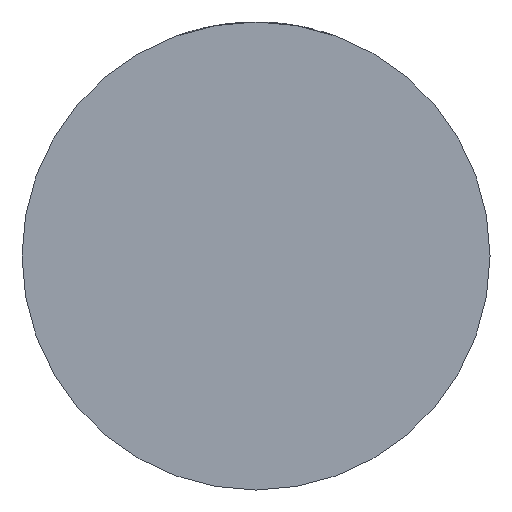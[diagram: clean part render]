
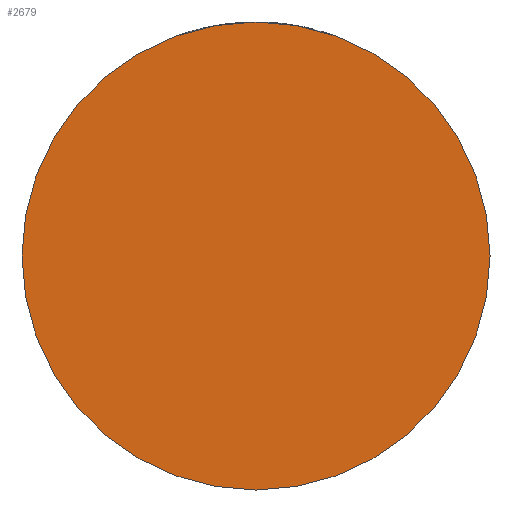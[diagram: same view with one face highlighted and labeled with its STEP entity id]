
A CAD part, front view. The second image highlights one B-rep face of the part: STEP entity #2679.
In plain terms, the highlighted planar face has unit normal (0, -1, 0).
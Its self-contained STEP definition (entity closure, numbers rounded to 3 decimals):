
#102 = PLANE ( 'NONE',  #1415 ) ;
#141 = CARTESIAN_POINT ( 'NONE',  ( 0., -25., 0. ) ) ;
#440 = DIRECTION ( 'NONE',  ( 0., -1., 0. ) ) ;
#752 = DIRECTION ( 'NONE',  ( 1., 0., 0. ) ) ;
#855 = CARTESIAN_POINT ( 'NONE',  ( -29.5, -25., 0. ) ) ;
#993 = ORIENTED_EDGE ( 'NONE', *, *, #3473, .T. ) ;
#1155 = DIRECTION ( 'NONE',  ( 1., 0., 0. ) ) ;
#1415 = AXIS2_PLACEMENT_3D ( 'NONE', #141, #2450, #1155 ) ;
#1462 = ORIENTED_EDGE ( 'NONE', *, *, #3512, .T. ) ;
#1763 = AXIS2_PLACEMENT_3D ( 'NONE', #2441, #2807, #4170 ) ;
#1786 = EDGE_LOOP ( 'NONE', ( #993, #1462 ) ) ;
#2122 = AXIS2_PLACEMENT_3D ( 'NONE', #2483, #440, #752 ) ;
#2441 = CARTESIAN_POINT ( 'NONE',  ( 0., -25., 0. ) ) ;
#2450 = DIRECTION ( 'NONE',  ( 0., -1., 0. ) ) ;
#2483 = CARTESIAN_POINT ( 'NONE',  ( 0., -25., 0. ) ) ;
#2679 = ADVANCED_FACE ( 'NONE', ( #4203 ), #102, .T. ) ;
#2807 = DIRECTION ( 'NONE',  ( 0., -1., 0. ) ) ;
#3125 = CARTESIAN_POINT ( 'NONE',  ( 29.5, -25., 0. ) ) ;
#3165 = CIRCLE ( 'NONE', #2122, 29.5 ) ;
#3260 = VERTEX_POINT ( 'NONE', #3125 ) ;
#3473 = EDGE_CURVE ( 'NONE', #3592, #3260, #4030, .T. ) ;
#3512 = EDGE_CURVE ( 'NONE', #3260, #3592, #3165, .T. ) ;
#3592 = VERTEX_POINT ( 'NONE', #855 ) ;
#4030 = CIRCLE ( 'NONE', #1763, 29.5 ) ;
#4170 = DIRECTION ( 'NONE',  ( 1., 0., 0. ) ) ;
#4203 = FACE_OUTER_BOUND ( 'NONE', #1786, .T. ) ;
